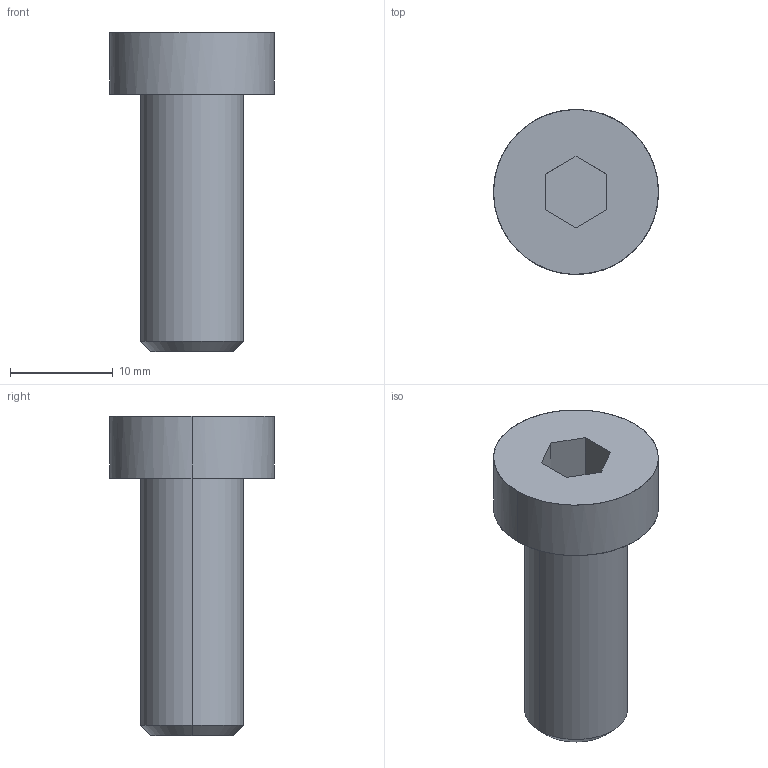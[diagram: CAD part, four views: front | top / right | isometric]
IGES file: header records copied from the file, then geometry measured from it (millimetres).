
Global section: file name: E:\UnigraphicsGraphicData\MISUMI_PRESS-PARTS\IGES\3d_cbs10-25_00456_r00.igs; native system: NX V5.0; preprocessor: UGS NX IGES V5.0; author: MISUMI; date: 20110105.160159; units: millimetre
Bounding box: 16 x 16 x 31 mm (x, y, z)
Surface area: 1564.2 mm2 (no closed solid volume)
Topology: 0 solids, 0 shells, 16 faces, 92 edges, 92 vertices
Faces by surface type: bspline 16
